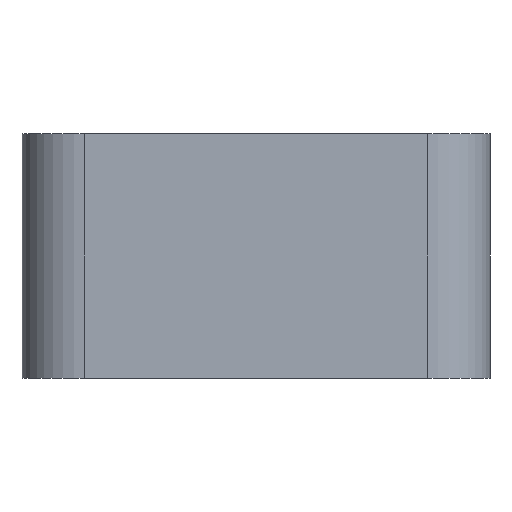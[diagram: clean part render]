
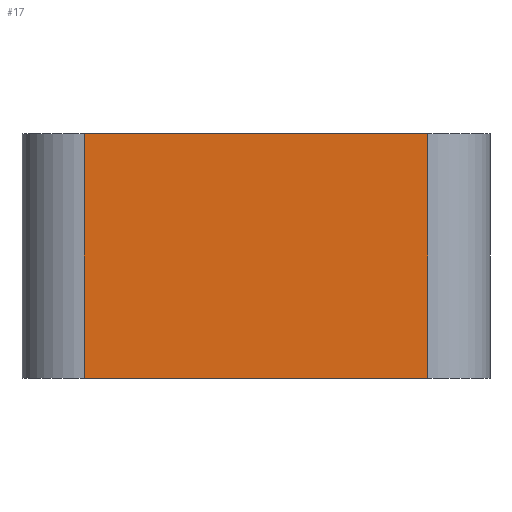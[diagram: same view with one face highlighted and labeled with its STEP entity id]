
A CAD part, left-side view. The second image highlights one B-rep face of the part: STEP entity #17.
In plain terms, the highlighted planar face has unit normal (-1, 0, 0).
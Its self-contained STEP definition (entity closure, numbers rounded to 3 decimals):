
#17 = ADVANCED_FACE('',(#18),#32,.F.);
#18 = FACE_BOUND('',#19,.F.);
#19 = EDGE_LOOP('',(#20,#55,#83,#111));
#20 = ORIENTED_EDGE('',*,*,#21,.F.);
#21 = EDGE_CURVE('',#22,#24,#26,.T.);
#22 = VERTEX_POINT('',#23);
#23 = CARTESIAN_POINT('',(-2.,-19.35,12.4));
#24 = VERTEX_POINT('',#25);
#25 = CARTESIAN_POINT('',(-2.,-17.15,12.4));
#26 = SURFACE_CURVE('',#27,(#31,#43),.PCURVE_S1.);
#27 = LINE('',#28,#29);
#28 = CARTESIAN_POINT('',(-2.,-19.75,12.4));
#29 = VECTOR('',#30,1.);
#30 = DIRECTION('',(0.,1.,0.));
#31 = PCURVE('',#32,#37);
#32 = PLANE('',#33);
#33 = AXIS2_PLACEMENT_3D('',#34,#35,#36);
#34 = CARTESIAN_POINT('',(-2.,-19.75,10.83));
#35 = DIRECTION('',(1.,0.,0.));
#36 = DIRECTION('',(0.,0.,1.));
#37 = DEFINITIONAL_REPRESENTATION('',(#38),#42);
#38 = LINE('',#39,#40);
#39 = CARTESIAN_POINT('',(1.57,0.));
#40 = VECTOR('',#41,1.);
#41 = DIRECTION('',(0.,-1.));
#42 = ( GEOMETRIC_REPRESENTATION_CONTEXT(2) 
PARAMETRIC_REPRESENTATION_CONTEXT() REPRESENTATION_CONTEXT('2D SPACE',''
  ) );
#43 = PCURVE('',#44,#49);
#44 = PLANE('',#45);
#45 = AXIS2_PLACEMENT_3D('',#46,#47,#48);
#46 = CARTESIAN_POINT('',(-2.,-19.75,12.4));
#47 = DIRECTION('',(0.,0.,1.));
#48 = DIRECTION('',(1.,0.,0.));
#49 = DEFINITIONAL_REPRESENTATION('',(#50),#54);
#50 = LINE('',#51,#52);
#51 = CARTESIAN_POINT('',(0.,0.));
#52 = VECTOR('',#53,1.);
#53 = DIRECTION('',(0.,1.));
#54 = ( GEOMETRIC_REPRESENTATION_CONTEXT(2) 
PARAMETRIC_REPRESENTATION_CONTEXT() REPRESENTATION_CONTEXT('2D SPACE',''
  ) );
#55 = ORIENTED_EDGE('',*,*,#56,.F.);
#56 = EDGE_CURVE('',#57,#22,#59,.T.);
#57 = VERTEX_POINT('',#58);
#58 = CARTESIAN_POINT('',(-2.,-19.35,10.83));
#59 = SURFACE_CURVE('',#60,(#64,#71),.PCURVE_S1.);
#60 = LINE('',#61,#62);
#61 = CARTESIAN_POINT('',(-2.,-19.35,10.83));
#62 = VECTOR('',#63,1.);
#63 = DIRECTION('',(0.,0.,1.));
#64 = PCURVE('',#32,#65);
#65 = DEFINITIONAL_REPRESENTATION('',(#66),#70);
#66 = LINE('',#67,#68);
#67 = CARTESIAN_POINT('',(0.,-0.4));
#68 = VECTOR('',#69,1.);
#69 = DIRECTION('',(1.,0.));
#70 = ( GEOMETRIC_REPRESENTATION_CONTEXT(2) 
PARAMETRIC_REPRESENTATION_CONTEXT() REPRESENTATION_CONTEXT('2D SPACE',''
  ) );
#71 = PCURVE('',#72,#77);
#72 = CYLINDRICAL_SURFACE('',#73,0.4);
#73 = AXIS2_PLACEMENT_3D('',#74,#75,#76);
#74 = CARTESIAN_POINT('',(-1.6,-19.35,10.83));
#75 = DIRECTION('',(0.,0.,1.));
#76 = DIRECTION('',(-1.,-0.,0.));
#77 = DEFINITIONAL_REPRESENTATION('',(#78),#82);
#78 = LINE('',#79,#80);
#79 = CARTESIAN_POINT('',(0.,0.));
#80 = VECTOR('',#81,1.);
#81 = DIRECTION('',(0.,1.));
#82 = ( GEOMETRIC_REPRESENTATION_CONTEXT(2) 
PARAMETRIC_REPRESENTATION_CONTEXT() REPRESENTATION_CONTEXT('2D SPACE',''
  ) );
#83 = ORIENTED_EDGE('',*,*,#84,.T.);
#84 = EDGE_CURVE('',#57,#85,#87,.T.);
#85 = VERTEX_POINT('',#86);
#86 = CARTESIAN_POINT('',(-2.,-17.15,10.83));
#87 = SURFACE_CURVE('',#88,(#92,#99),.PCURVE_S1.);
#88 = LINE('',#89,#90);
#89 = CARTESIAN_POINT('',(-2.,-19.75,10.83));
#90 = VECTOR('',#91,1.);
#91 = DIRECTION('',(0.,1.,0.));
#92 = PCURVE('',#32,#93);
#93 = DEFINITIONAL_REPRESENTATION('',(#94),#98);
#94 = LINE('',#95,#96);
#95 = CARTESIAN_POINT('',(0.,0.));
#96 = VECTOR('',#97,1.);
#97 = DIRECTION('',(0.,-1.));
#98 = ( GEOMETRIC_REPRESENTATION_CONTEXT(2) 
PARAMETRIC_REPRESENTATION_CONTEXT() REPRESENTATION_CONTEXT('2D SPACE',''
  ) );
#99 = PCURVE('',#100,#105);
#100 = PLANE('',#101);
#101 = AXIS2_PLACEMENT_3D('',#102,#103,#104);
#102 = CARTESIAN_POINT('',(-2.,-19.75,10.83));
#103 = DIRECTION('',(0.,0.,1.));
#104 = DIRECTION('',(1.,0.,0.));
#105 = DEFINITIONAL_REPRESENTATION('',(#106),#110);
#106 = LINE('',#107,#108);
#107 = CARTESIAN_POINT('',(0.,0.));
#108 = VECTOR('',#109,1.);
#109 = DIRECTION('',(0.,1.));
#110 = ( GEOMETRIC_REPRESENTATION_CONTEXT(2) 
PARAMETRIC_REPRESENTATION_CONTEXT() REPRESENTATION_CONTEXT('2D SPACE',''
  ) );
#111 = ORIENTED_EDGE('',*,*,#112,.T.);
#112 = EDGE_CURVE('',#85,#24,#113,.T.);
#113 = SURFACE_CURVE('',#114,(#118,#125),.PCURVE_S1.);
#114 = LINE('',#115,#116);
#115 = CARTESIAN_POINT('',(-2.,-17.15,10.83));
#116 = VECTOR('',#117,1.);
#117 = DIRECTION('',(0.,0.,1.));
#118 = PCURVE('',#32,#119);
#119 = DEFINITIONAL_REPRESENTATION('',(#120),#124);
#120 = LINE('',#121,#122);
#121 = CARTESIAN_POINT('',(0.,-2.6));
#122 = VECTOR('',#123,1.);
#123 = DIRECTION('',(1.,0.));
#124 = ( GEOMETRIC_REPRESENTATION_CONTEXT(2) 
PARAMETRIC_REPRESENTATION_CONTEXT() REPRESENTATION_CONTEXT('2D SPACE',''
  ) );
#125 = PCURVE('',#126,#131);
#126 = CYLINDRICAL_SURFACE('',#127,0.4);
#127 = AXIS2_PLACEMENT_3D('',#128,#129,#130);
#128 = CARTESIAN_POINT('',(-1.6,-17.15,10.83));
#129 = DIRECTION('',(0.,0.,1.));
#130 = DIRECTION('',(-1.,-0.,0.));
#131 = DEFINITIONAL_REPRESENTATION('',(#132),#136);
#132 = LINE('',#133,#134);
#133 = CARTESIAN_POINT('',(-0.,0.));
#134 = VECTOR('',#135,1.);
#135 = DIRECTION('',(-0.,1.));
#136 = ( GEOMETRIC_REPRESENTATION_CONTEXT(2) 
PARAMETRIC_REPRESENTATION_CONTEXT() REPRESENTATION_CONTEXT('2D SPACE',''
  ) );
